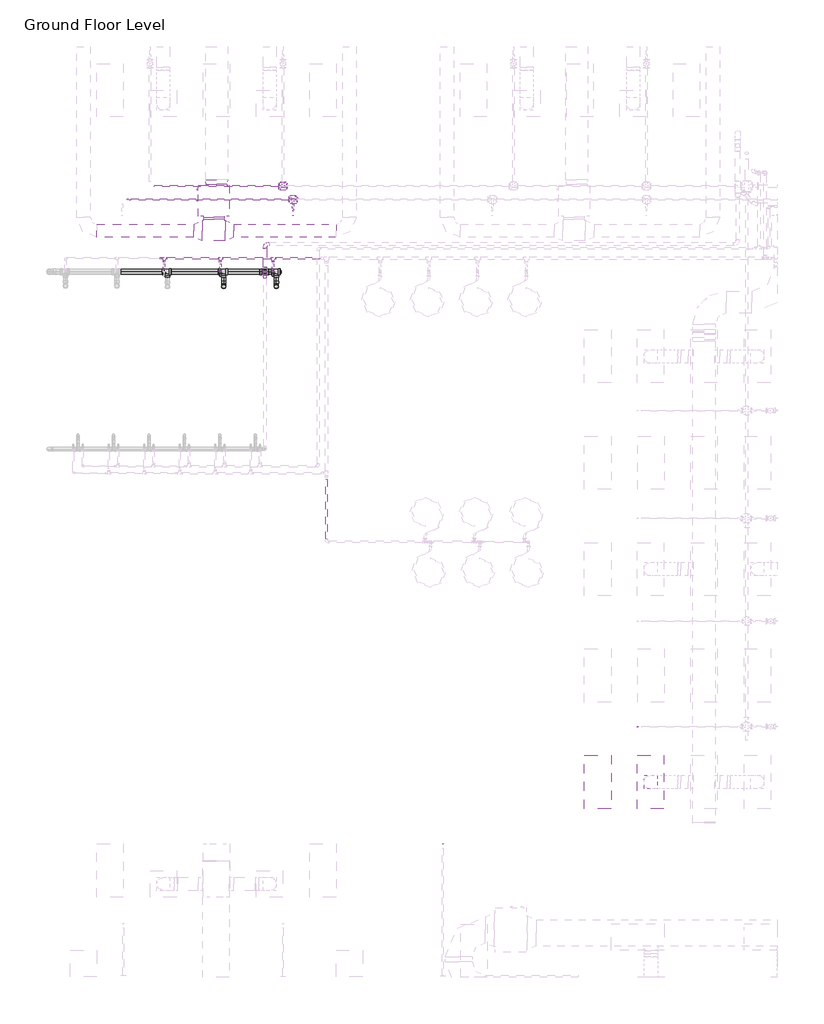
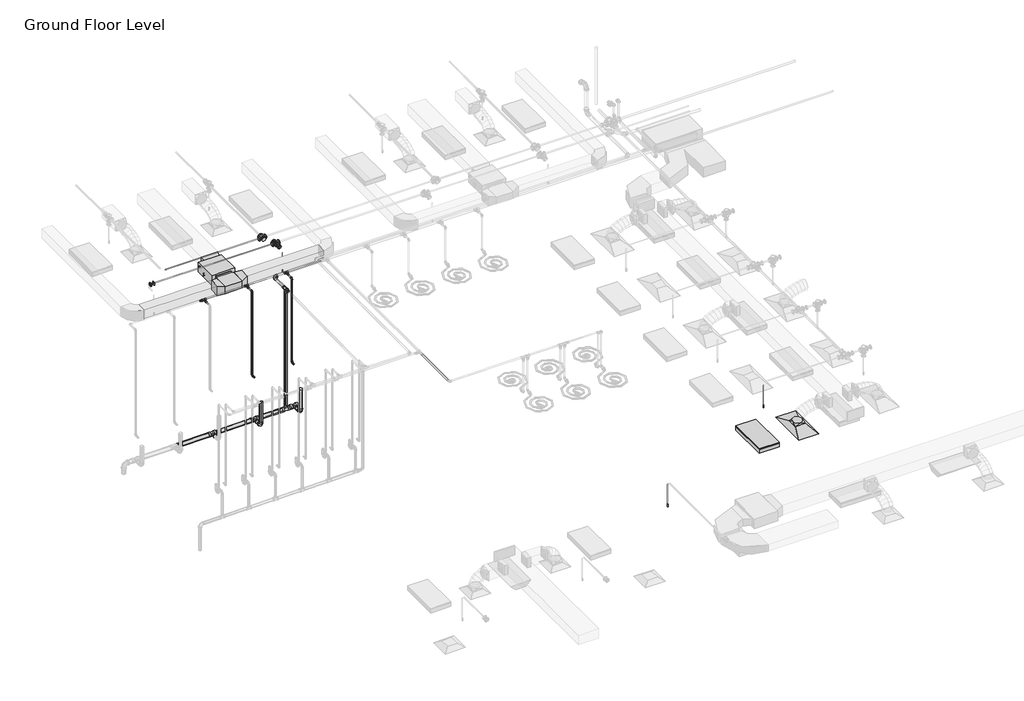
# One storey, part 42 of 68: 28 pipe segments, 25 pipe fittings, 5 duct fittings, 3 duct segments, 3 fire suppression terminals, 1 air terminal, 1 light fixture, 1 proxy.
"""IFC4 building model written with IfcOpenShell, lengths in millimetres."""

from ifc_helpers import new_model, si_unit, point, frame, frame_2d, origin, place, context, project, spatial, polyline, circle_curve, trimmed, segment, composite_curve, outline, extrude, transform, mapped, element, save
from components import m_return_diffuser_1200x600_1200_x_600_face_300_x_300_d1983ef6, fcu_daikin_iu_bad131e0, m_rectangular_tee_standard_fa4de0e8, m_rectangular_transition_angle_45_degree_5a11b24e, m_rectangular_transition_angle_45_degree_6e5ad010, m_rectangular_to_round_transition_angle_45_degree_641efff0, m_sprinkler_dry_pendent_hosted_15_mm_dry_pendent_9bda8e11, m_sprinkler_pendent_15_mm_pendent_06fcbd8e, m_troffer_light_parabolic_rectangular1_0600x1200mm_4_lamp_86473d4a, m_bend_pvc_sch_40_dwv_standard_a4b99d37, m_bend_pvc_sch_40_dwv_standard_1fdc8943, m_plug_pvc_sch_40_dwv_standard_6c40de1c, m_reducer_flanged_cs_class_150_standard_ccf252ad, m_reducer_pvc_sch_40_dwv_standard_d6f2da47, m_tee_reducing_sanitary_pvc_sch_40_dwv_standard_b49161a9, m_tee_reducing_sanitary_pvc_sch_40_dwv_standard_35af4ecc, m_tee_reducing_sanitary_pvc_sch_40_dwv_standard_9cd1363b, m_tee_round_base_flanged_cs_class_150_standard_7e5987a1, standard_517a5a8d, standard_08ff6011, standard_d0d0b892

model = new_model("IFC4")

# Units and contexts
model_context = context("Model", 3, world=origin())
ifc_project = project(units=[si_unit("LENGTHUNIT", "METRE", prefix="MILLI")], contexts=[model_context])

# Site, building, storey
site = spatial("IfcSite", under=ifc_project)
building = spatial("IfcBuilding", under=site)
storey = spatial("IfcBuildingStorey", under=building, Name="Ground Floor Level", Elevation=900.0)

# Air terminal
placement = place(None, origin())
m_return_diffuser_1200x600_1200_x_600_face_300_x_300_shape = m_return_diffuser_1200x600_1200_x_600_face_300_x_300_d1983ef6(model_context)
element("IfcAirTerminal", 1, ObjectType="M_Supply Diffuser 1200x600 : 1200 x 600 Face 300 x 300 Connection", at=placement, inside=storey, context=model_context, shape_type="MappedRepresentation", body=[
    mapped(m_return_diffuser_1200x600_1200_x_600_face_300_x_300_shape, transform((-8142.6846929, 1635.2153534, 3650.0), x_axis=(0.0, 1.0, 0.0), y_axis=(-1.0, 0.0, 0.0), z_axis=(0.0, 0.0, 1.0))),
])

# Proxy
fcu_daikin_iu_shape = fcu_daikin_iu_bad131e0(model_context)
element("IfcBuildingElementProxy", 2, Name="FCU-DAIKIN IU : 4.5kW, 230V/50Hz/1Ph", ObjectType="FCU-DAIKIN IU : 4.5kW, 230V/50Hz/1Ph", at=placement, inside=storey, context=model_context, shape_type="MappedRepresentation", body=[
    mapped(fcu_daikin_iu_shape, transform((-17997.2327605, 14745.2153534, 3934.0881511), x_axis=(-1.0, 0.0, 0.0), y_axis=(0.0, -1.0, 0.0), z_axis=(0.0, 0.0, 1.0))),
])

# Duct fittings
m_rectangular_tee_standard_shape = m_rectangular_tee_standard_fa4de0e8(model_context)
element("IfcDuctFitting", 3, ObjectType="M_Rectangular Tee : Standard", at=placement, inside=storey, context=model_context, shape_type="MappedRepresentation", body=[
    mapped(m_rectangular_tee_standard_shape, transform((-17997.2327605, 14069.8153534, 4075.2881511), x_axis=(-1.0, 0.0, 0.0), y_axis=(0.0, -1.0, 0.0), z_axis=(0.0, 0.0, 1.0))),
])
m_rectangular_transition_angle_45_degree_shape = m_rectangular_transition_angle_45_degree_5a11b24e(model_context)
element("IfcDuctFitting", 4, ObjectType="M_Rectangular Transition - Angle : 45 Degree", at=placement, inside=storey, context=model_context, shape_type="MappedRepresentation", body=[
    mapped(m_rectangular_transition_angle_45_degree_shape, transform((-17933.7327605, 15120.6153534, 4100.0006511), x_axis=(0.0, 1.0, 0.0), y_axis=(-1.0, 0.0, 0.0), z_axis=(0.0, 0.0, 1.0))),
])
m_rectangular_transition_angle_45_degree_2_shape = m_rectangular_transition_angle_45_degree_6e5ad010(model_context)
element("IfcDuctFitting", 5, ObjectType="M_Rectangular Transition - Angle : 45 Degree", at=placement, inside=storey, context=model_context, shape_type="MappedRepresentation", body=[
    mapped(m_rectangular_transition_angle_45_degree_2_shape, transform((-17741.2952605, 14069.8153534, 4075.2881511), x_axis=(1.0, 0.0, 0.0), y_axis=(0.0, 1.0, 0.0), z_axis=(0.0, 0.0, 1.0))),
])
element("IfcDuctFitting", 6, ObjectType="M_Rectangular Transition - Angle : 45 Degree", at=placement, inside=storey, context=model_context, shape_type="MappedRepresentation", body=[
    mapped(m_rectangular_transition_angle_45_degree_2_shape, transform((-18253.1702605, 14069.8153534, 4075.2881511), x_axis=(-1.0, 0.0, 0.0), y_axis=(0.0, -1.0, 0.0), z_axis=(0.0, 0.0, 1.0))),
])
m_rectangular_to_round_transition_angle_45_degree_shape = m_rectangular_to_round_transition_angle_45_degree_641efff0(model_context)
element("IfcDuctFitting", 7, ObjectType="M_Rectangular to Round Transition - Angle : 45 Degree", at=placement, inside=storey, context=model_context, shape_type="MappedRepresentation", body=[
    mapped(m_rectangular_to_round_transition_angle_45_degree_shape, transform((-8142.6846929, 1635.2153534, 3751.6), x_axis=(0.0, 0.0, 1.0), y_axis=(-1.0, 0.0, 0.0), z_axis=(0.0, -1.0, 0.0))),
])

# Duct segments
element("IfcDuctSegment", 8, ObjectType="Radius Elbows / Taps", at=placement, inside=storey, context=model_context, shape_type="SweptSolid", body=[
    extrude(outline(polyline([(-18228.1702605, 14369.8153534), (-17766.2952605, 14369.8153534), (-17766.2952605, 14325.7528534), (-18228.1702605, 14325.7528534), (-18228.1702605, 14369.8153534)])), frame((0.0, 0.0, 3968.1381511), z_axis=(0.0, 0.0, 1.0), x_axis=(1.0, 0.0, 0.0)), (0.0, 0.0, 1.0), 214.3),
])
element("IfcDuctSegment", 9, ObjectType="Radius Elbows / Taps", at=placement, inside=storey, context=model_context, shape_type="SweptSolid", body=[
    extrude(outline(polyline([(-17545.8948503, 13919.8153534), (-17545.8948503, 14219.8153534), (-15237.2327605, 14219.8153534), (-15237.2327605, 13919.8153534), (-17545.8948503, 13919.8153534)])), frame((0.0, 0.0, 3925.2881511), z_axis=(0.0, 0.0, 1.0), x_axis=(1.0, 0.0, 0.0)), (0.0, 0.0, 1.0), 300.0),
])
element("IfcDuctSegment", 10, ObjectType="Radius Elbows / Taps", at=placement, inside=storey, context=model_context, shape_type="SweptSolid", body=[
    extrude(outline(polyline([(-18448.5706707, 14219.8153534), (-18448.5706707, 13919.8153534), (-20637.2327605, 13919.8153534), (-20637.2327605, 14219.8153534), (-18448.5706707, 14219.8153534)])), frame((0.0, 0.0, 3925.2881511), z_axis=(0.0, 0.0, 1.0), x_axis=(1.0, 0.0, 0.0)), (0.0, 0.0, 1.0), 300.0),
])

# Fire suppression terminals
m_sprinkler_dry_pendent_hosted_15_mm_dry_pendent_shape = m_sprinkler_dry_pendent_hosted_15_mm_dry_pendent_9bda8e11(model_context)
element("IfcFireSuppressionTerminal", 11, ObjectType="M_Sprinkler - Dry - Pendent - Hosted : 15 mm Dry Pendent", at=placement, inside=storey, context=model_context, shape_type="MappedRepresentation", body=[
    mapped(m_sprinkler_dry_pendent_hosted_15_mm_dry_pendent_shape, transform((-8437.2327605, 2881.5134565, 3650.0), x_axis=(1.0, 0.0, 0.0), y_axis=(0.0, -1.0, 0.0), z_axis=(0.0, 0.0, -1.0))),
])
element("IfcFireSuppressionTerminal", 12, ObjectType="M_Sprinkler - Dry - Pendent - Hosted : 15 mm Dry Pendent", at=placement, inside=storey, context=model_context, shape_type="MappedRepresentation", body=[
    mapped(m_sprinkler_dry_pendent_hosted_15_mm_dry_pendent_shape, transform((-12837.2327605, 235.2153534, 3650.0), x_axis=(1.0, 0.0, 0.0), y_axis=(0.0, -1.0, 0.0), z_axis=(0.0, 0.0, -1.0))),
])
m_sprinkler_pendent_15_mm_pendent_shape = m_sprinkler_pendent_15_mm_pendent_06fcbd8e(model_context)
element("IfcFireSuppressionTerminal", 13, ObjectType="M_Sprinkler - Pendent : 15 mm Pendent", at=placement, inside=storey, context=model_context, shape_type="MappedRepresentation", body=[
    mapped(m_sprinkler_pendent_15_mm_pendent_shape, transform((-16210.1138499, 14412.7243649, 3650.0), x_axis=(1.0, 0.0, 0.0), y_axis=(0.0, 1.0, 0.0), z_axis=(0.0, 0.0, 1.0))),
])

# Light fixture
m_troffer_light_parabolic_rectangular1_0600x1200mm_4_lamp_shape = m_troffer_light_parabolic_rectangular1_0600x1200mm_4_lamp_86473d4a(model_context)
element("IfcLightFixture", 14, ObjectType="M_Troffer Light - Parabolic Rectangular1 : 0600x1200mm(4 Lamp) - 277V 2", at=placement, inside=storey, context=model_context, shape_type="MappedRepresentation", body=[
    mapped(m_troffer_light_parabolic_rectangular1_0600x1200mm_4_lamp_shape, transform((-9396.6986926, 1653.918855, 3650.0), x_axis=(0.0, 1.0, 0.0), y_axis=(-1.0, 0.0, 0.0), z_axis=(0.0, 0.0, 1.0))),
])

# Pipe fittings
m_bend_pvc_sch_40_dwv_standard_shape = m_bend_pvc_sch_40_dwv_standard_a4b99d37(model_context)
element("IfcPipeFitting", 15, ObjectType="M_Bend - PVC - Sch 40 - DWV : Standard", at=placement, inside=storey, context=model_context, shape_type="MappedRepresentation", body=[
    mapped(m_bend_pvc_sch_40_dwv_standard_shape, transform((-17775.8329095, 12811.6726561, 239.3073168), x_axis=(0.0, 0.0, -1.0), y_axis=(0.0, 1.0, 0.0), z_axis=(1.0, 0.0, 0.0))),
])
element("IfcPipeFitting", 16, ObjectType="M_Bend - PVC - Sch 40 - DWV : Standard", at=placement, inside=storey, context=model_context, shape_type="MappedRepresentation", body=[
    mapped(m_bend_pvc_sch_40_dwv_standard_shape, transform((-16586.4202262, 12811.6726561, 251.2014437), x_axis=(0.0, 0.0, -1.0), y_axis=(0.0, 1.0, 0.0), z_axis=(1.0, 0.0, 0.0))),
])
m_bend_pvc_sch_40_dwv_standard_2_shape = m_bend_pvc_sch_40_dwv_standard_1fdc8943(model_context)
element("IfcPipeFitting", 17, ObjectType="M_Bend - PVC - Sch 40 - DWV : Standard", at=placement, inside=storey, context=model_context, shape_type="MappedRepresentation", body=[
    mapped(m_bend_pvc_sch_40_dwv_standard_2_shape, transform((-16844.3158637, 13768.8048932, 4050.2768363), x_axis=(-0.9999500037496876, 0.0, -0.009999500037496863), y_axis=(0.0, -1.0, 0.0), z_axis=(-0.009999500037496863, 0.0, 0.9999500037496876))),
])
m_plug_pvc_sch_40_dwv_standard_shape = m_plug_pvc_sch_40_dwv_standard_6c40de1c(model_context)
element("IfcPipeFitting", 18, ObjectType="M_Plug - PVC - Sch 40 - DWV : Standard", at=placement, inside=storey, context=model_context, shape_type="MappedRepresentation", body=[
    mapped(m_plug_pvc_sch_40_dwv_standard_shape, transform((-16497.5246709, 13143.7240477, 252.0903992), x_axis=(0.9999500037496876, 0.0, 0.009999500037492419), y_axis=(0.0, 1.0, 0.0), z_axis=(-0.009999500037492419, 0.0, 0.9999500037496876))),
])
m_reducer_flanged_cs_class_150_standard_shape = m_reducer_flanged_cs_class_150_standard_ccf252ad(model_context)
element("IfcPipeFitting", 19, ObjectType="M_Reducer - Flanged - CS - Class 150 : Standard", at=placement, inside=storey, context=model_context, shape_type="MappedRepresentation", body=[
    mapped(m_reducer_flanged_cs_class_150_standard_shape, transform((-19856.6717995, 14773.4681847, 4291.0943441), x_axis=(-1.0, 0.0, 0.0), y_axis=(0.0, -1.0, 0.0), z_axis=(0.0, 0.0, 1.0))),
])
element("IfcPipeFitting", 20, ObjectType="M_Reducer - Flanged - CS - Class 150 : Standard", at=placement, inside=storey, context=model_context, shape_type="MappedRepresentation", body=[
    mapped(m_reducer_flanged_cs_class_150_standard_shape, transform((-16210.1138499, 14672.759591, 4291.0943441), x_axis=(0.0, -1.0, 0.0), y_axis=(1.0, 0.0, 0.0), z_axis=(0.0, 0.0, 1.0))),
])
m_reducer_pvc_sch_40_dwv_standard_shape = m_reducer_pvc_sch_40_dwv_standard_d6f2da47(model_context)
element("IfcPipeFitting", 21, ObjectType="M_Reducer - PVC - Sch 40 - DWV : Standard", at=placement, inside=storey, context=model_context, shape_type="MappedRepresentation", body=[
    mapped(m_reducer_pvc_sch_40_dwv_standard_shape, transform((-16844.3158637, 13068.078397, 4049.9889294), x_axis=(0.0, -0.9999576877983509, -0.009199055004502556), y_axis=(1.0000000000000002, 0.0, 0.0), z_axis=(0.0, -0.009199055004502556, 0.9999576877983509))),
])
m_tee_reducing_sanitary_pvc_sch_40_dwv_standard_shape = m_tee_reducing_sanitary_pvc_sch_40_dwv_standard_b49161a9(model_context)
element("IfcPipeFitting", 22, ObjectType="M_Tee Reducing Sanitary - PVC - Sch 40 - DWV : Standard", at=placement, inside=storey, context=model_context, shape_type="MappedRepresentation", body=[
    mapped(m_tee_reducing_sanitary_pvc_sch_40_dwv_standard_shape, transform((-19043.0428538, 13143.7240477, 226.6352174), x_axis=(0.9999500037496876, 0.0, 0.009999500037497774), y_axis=(0.0, 1.0000000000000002, 0.0), z_axis=(-0.009999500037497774, 0.0, 0.9999500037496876))),
])
element("IfcPipeFitting", 23, ObjectType="M_Tee Reducing Sanitary - PVC - Sch 40 - DWV : Standard", at=placement, inside=storey, context=model_context, shape_type="MappedRepresentation", body=[
    mapped(m_tee_reducing_sanitary_pvc_sch_40_dwv_standard_shape, transform((-17775.8329095, 13143.7240477, 239.3073168), x_axis=(0.9999500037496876, 0.0, 0.00999950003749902), y_axis=(0.0, 1.0000000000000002, 0.0), z_axis=(-0.00999950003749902, 0.0, 0.9999500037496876))),
])
element("IfcPipeFitting", 24, ObjectType="M_Tee Reducing Sanitary - PVC - Sch 40 - DWV : Standard", at=placement, inside=storey, context=model_context, shape_type="MappedRepresentation", body=[
    mapped(m_tee_reducing_sanitary_pvc_sch_40_dwv_standard_shape, transform((-16586.4202262, 13143.7240477, 251.2014437), x_axis=(0.9999500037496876, 0.0, 0.009999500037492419), y_axis=(0.0, 1.0, 0.0), z_axis=(-0.009999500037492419, 0.0, 0.9999500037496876))),
])
m_tee_reducing_sanitary_pvc_sch_40_dwv_standard_2_shape = m_tee_reducing_sanitary_pvc_sch_40_dwv_standard_35af4ecc(model_context)
element("IfcPipeFitting", 25, ObjectType="M_Tee Reducing Sanitary - PVC - Sch 40 - DWV : Standard", at=placement, inside=storey, context=model_context, shape_type="MappedRepresentation", body=[
    mapped(m_tee_reducing_sanitary_pvc_sch_40_dwv_standard_2_shape, transform((-16844.3824695, 13143.7240477, 248.6218212), x_axis=(0.9999500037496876, 0.0, 0.00999950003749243), y_axis=(0.00999950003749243, 0.0, -0.9999500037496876), z_axis=(0.0, 1.0, 0.0))),
])
m_tee_reducing_sanitary_pvc_sch_40_dwv_standard_3_shape = m_tee_reducing_sanitary_pvc_sch_40_dwv_standard_9cd1363b(model_context)
element("IfcPipeFitting", 26, ObjectType="M_Tee Reducing Sanitary - PVC - Sch 40 - DWV : Standard", at=placement, inside=storey, context=model_context, shape_type="MappedRepresentation", body=[
    mapped(m_tee_reducing_sanitary_pvc_sch_40_dwv_standard_3_shape, transform((-16844.3158637, 13143.7240477, 4050.2768363), x_axis=(0.0, -1.0, 0.0), y_axis=(-2.9192257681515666e-06, 0.0, 0.9999999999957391), z_axis=(-0.9999999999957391, 0.0, -2.9192257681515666e-06))),
])
m_tee_round_base_flanged_cs_class_150_standard_shape = m_tee_round_base_flanged_cs_class_150_standard_7e5987a1(model_context)
element("IfcPipeFitting", 27, ObjectType="M_Tee Round Base - Flanged - CS - Class 150 : Standard", at=placement, inside=storey, context=model_context, shape_type="MappedRepresentation", body=[
    mapped(m_tee_round_base_flanged_cs_class_150_standard_shape, transform((-16210.1138499, 14773.4681847, 4291.0943441), x_axis=(-1.0, 0.0, 0.0), y_axis=(0.0, 1.0, 0.0), z_axis=(0.0, 0.0, -1.0))),
])
element("IfcPipeFitting", 28, ObjectType="M_Tee Round Base - Flanged - CS - Class 150 : Standard", at=placement, inside=storey, context=model_context, shape_type="MappedRepresentation", body=[
    mapped(m_tee_round_base_flanged_cs_class_150_standard_shape, transform((-16437.2327605, 15073.2009828, 4360.0), x_axis=(-1.0, 0.0, 0.0), y_axis=(0.0, -1.0, 0.0), z_axis=(0.0, 0.0, 1.0))),
])
standard_shape = standard_517a5a8d(model_context)
element("IfcPipeFitting", 29, ObjectType="M_Elbow - CPVC - Sch 40 : Standard", at=placement, inside=storey, context=model_context, shape_type="MappedRepresentation", body=[
    mapped(standard_shape, transform((-17849.2716757, 13149.9865561, 4315.0), x_axis=(0.0, 0.0, 1.0), y_axis=(0.0, 1.0, 0.0), z_axis=(-1.0, 0.0, 0.0))),
])
element("IfcPipeFitting", 30, ObjectType="M_Elbow - CPVC - Sch 40 : Standard", at=placement, inside=storey, context=model_context, shape_type="MappedRepresentation", body=[
    mapped(standard_shape, transform((-16659.8589924, 13149.9865561, 4315.0), x_axis=(0.0, 0.0, 1.0), y_axis=(0.0, 1.0, 0.0), z_axis=(-1.0, 0.0, 0.0))),
])
element("IfcPipeFitting", 31, ObjectType="M_Elbow - CPVC - Sch 40 : Standard", at=placement, inside=storey, context=model_context, shape_type="MappedRepresentation", body=[
    mapped(standard_shape, transform((-17849.2716757, 13149.9865561, 1655.0), x_axis=(0.0, 0.0, -1.0), y_axis=(0.0, -1.0, 0.0), z_axis=(-1.0, 0.0, 0.0))),
])
element("IfcPipeFitting", 32, ObjectType="M_Elbow - CPVC - Sch 40 : Standard", at=placement, inside=storey, context=model_context, shape_type="MappedRepresentation", body=[
    mapped(standard_shape, transform((-16659.8589924, 13149.9865561, 1655.0), x_axis=(0.0, 0.0, -1.0), y_axis=(0.0, -1.0, 0.0), z_axis=(-1.0, 0.0, 0.0))),
])
standard_2_shape = standard_08ff6011(model_context)
element("IfcPipeFitting", 33, ObjectType="M_Tee - CPVC - Sch 40 : Standard", at=placement, inside=storey, context=model_context, shape_type="MappedRepresentation", body=[
    mapped(standard_2_shape, transform((-19116.48162, 13449.9865561, 4315.0), x_axis=(-1.0, 0.0, 0.0), y_axis=(0.0, 1.0, 0.0), z_axis=(0.0, 0.0, -1.0))),
])
element("IfcPipeFitting", 34, ObjectType="M_Tee - CPVC - Sch 40 : Standard", at=placement, inside=storey, context=model_context, shape_type="MappedRepresentation", body=[
    mapped(standard_2_shape, transform((-17849.2716757, 13449.9865561, 4315.0), x_axis=(-1.0, 0.0, 0.0), y_axis=(0.0, 1.0, 0.0), z_axis=(0.0, 0.0, -1.0))),
])
element("IfcPipeFitting", 35, ObjectType="M_Tee - CPVC - Sch 40 : Standard", at=placement, inside=storey, context=model_context, shape_type="MappedRepresentation", body=[
    mapped(standard_2_shape, transform((-16659.8589924, 13449.9865561, 4315.0), x_axis=(-1.0, 0.0, 0.0), y_axis=(0.0, 1.0, 0.0), z_axis=(0.0, 0.0, -1.0))),
])
standard_3_shape = standard_d0d0b892(model_context)
element("IfcPipeFitting", 36, ObjectType="M_Coupling Reducing - CPVC - Sch 40 : Standard", at=placement, inside=storey, context=model_context, shape_type="MappedRepresentation", body=[
    mapped(standard_3_shape, transform((-19116.48162, 13396.0115561, 4315.0), x_axis=(0.0, -1.0, 0.0), y_axis=(1.0, 0.0, 0.0), z_axis=(0.0, 0.0, 1.0))),
])
element("IfcPipeFitting", 37, ObjectType="M_Coupling Reducing - CPVC - Sch 40 : Standard", at=placement, inside=storey, context=model_context, shape_type="MappedRepresentation", body=[
    mapped(standard_3_shape, transform((-17849.2716757, 13396.0115561, 4315.0), x_axis=(0.0, -1.0, 0.0), y_axis=(1.0, 0.0, 0.0), z_axis=(0.0, 0.0, 1.0))),
])
element("IfcPipeFitting", 38, ObjectType="M_Coupling Reducing - CPVC - Sch 40 : Standard", at=placement, inside=storey, context=model_context, shape_type="MappedRepresentation", body=[
    mapped(standard_3_shape, transform((-16659.8589924, 13396.0115561, 4315.0), x_axis=(0.0, -1.0, 0.0), y_axis=(1.0, 0.0, 0.0), z_axis=(0.0, 0.0, 1.0))),
])
element("IfcPipeFitting", 39, ObjectType="M_Coupling Reducing - CPVC - Sch 40 : Standard", at=placement, inside=storey, context=model_context, shape_type="MappedRepresentation", body=[
    mapped(standard_3_shape, transform((-19170.45662, 13449.9865561, 4315.0), x_axis=(-1.0, 0.0, 0.0), y_axis=(0.0, -1.0, 0.0), z_axis=(0.0, 0.0, 1.0))),
])

# Pipe segments
element("IfcPipeSegment", 40, ObjectType="CPVC", at=placement, inside=storey, context=model_context, shape_type="SweptSolid", body=[
    extrude(outline(composite_curve([segment(trimmed(circle_curve(frame_2d((1655.0, -17849.2716757)), 16.7005), [point((1655.0, -17865.9721757))], [point((1638.2995, -17849.2716757))], False, "CARTESIAN"), True, "CONTINUOUS"), segment(trimmed(circle_curve(frame_2d((1655.0, -17849.2716757)), 16.7005), [point((1638.2995, -17849.2716757))], [point((1655.0, -17832.5711757))], False, "CARTESIAN"), True, "CONTINUOUS"), segment(trimmed(circle_curve(frame_2d((1655.0, -17849.2716757)), 16.7005), [point((1655.0, -17832.5711757))], [point((1671.7005, -17849.2716757))], False, "CARTESIAN"), True, "CONTINUOUS"), segment(trimmed(circle_curve(frame_2d((1655.0, -17849.2716757)), 16.7005), [point((1671.7005, -17849.2716757))], [point((1655.0, -17865.9721757))], False, "CARTESIAN"), True, "CONTINUOUS")], self_intersect=False)), frame((0.0, 13045.2153534, 0.0), z_axis=(0.0, 1.0, 0.0), x_axis=(0.0, 0.0, 1.0)), (0.0, 0.0, 1.0), 61.5086528),
])
element("IfcPipeSegment", 41, ObjectType="CPVC", at=placement, inside=storey, context=model_context, shape_type="SweptSolid", body=[
    extrude(outline(composite_curve([segment(trimmed(circle_curve(frame_2d((-17849.2716757, 13149.9865561)), 16.7005), [point((-17865.9721757, 13149.9865561))], [point((-17849.2716757, 13166.6870561))], False, "CARTESIAN"), True, "CONTINUOUS"), segment(trimmed(circle_curve(frame_2d((-17849.2716757, 13149.9865561)), 16.7005), [point((-17849.2716757, 13166.6870561))], [point((-17832.5711757, 13149.9865561))], False, "CARTESIAN"), True, "CONTINUOUS"), segment(trimmed(circle_curve(frame_2d((-17849.2716757, 13149.9865561)), 16.7005), [point((-17832.5711757, 13149.9865561))], [point((-17849.2716757, 13133.2860561))], False, "CARTESIAN"), True, "CONTINUOUS"), segment(trimmed(circle_curve(frame_2d((-17849.2716757, 13149.9865561)), 16.7005), [point((-17849.2716757, 13133.2860561))], [point((-17865.9721757, 13149.9865561))], False, "CARTESIAN"), True, "CONTINUOUS")], self_intersect=False)), frame((0.0, 0.0, 1698.26255), z_axis=(0.0, 0.0, 1.0), x_axis=(1.0, 0.0, 0.0)), (0.0, 0.0, 1.0), 2573.4749),
])
element("IfcPipeSegment", 42, ObjectType="CPVC", at=placement, inside=storey, context=model_context, shape_type="SweptSolid", body=[
    extrude(outline(composite_curve([segment(trimmed(circle_curve(frame_2d((1655.0, -16659.8589924)), 16.7005), [point((1655.0, -16676.5594924))], [point((1638.2995, -16659.8589924))], False, "CARTESIAN"), True, "CONTINUOUS"), segment(trimmed(circle_curve(frame_2d((1655.0, -16659.8589924)), 16.7005), [point((1638.2995, -16659.8589924))], [point((1655.0, -16643.1584924))], False, "CARTESIAN"), True, "CONTINUOUS"), segment(trimmed(circle_curve(frame_2d((1655.0, -16659.8589924)), 16.7005), [point((1655.0, -16643.1584924))], [point((1671.7005, -16659.8589924))], False, "CARTESIAN"), True, "CONTINUOUS"), segment(trimmed(circle_curve(frame_2d((1655.0, -16659.8589924)), 16.7005), [point((1671.7005, -16659.8589924))], [point((1655.0, -16676.5594924))], False, "CARTESIAN"), True, "CONTINUOUS")], self_intersect=False)), frame((0.0, 13045.2153534, 0.0), z_axis=(0.0, 1.0, 0.0), x_axis=(0.0, 0.0, 1.0)), (0.0, 0.0, 1.0), 61.5086528),
])
element("IfcPipeSegment", 43, ObjectType="CPVC", at=placement, inside=storey, context=model_context, shape_type="SweptSolid", body=[
    extrude(outline(composite_curve([segment(trimmed(circle_curve(frame_2d((-16659.8589924, 13149.9865561)), 16.7005), [point((-16676.5594924, 13149.9865561))], [point((-16659.8589924, 13166.6870561))], False, "CARTESIAN"), True, "CONTINUOUS"), segment(trimmed(circle_curve(frame_2d((-16659.8589924, 13149.9865561)), 16.7005), [point((-16659.8589924, 13166.6870561))], [point((-16643.1584924, 13149.9865561))], False, "CARTESIAN"), True, "CONTINUOUS"), segment(trimmed(circle_curve(frame_2d((-16659.8589924, 13149.9865561)), 16.7005), [point((-16643.1584924, 13149.9865561))], [point((-16659.8589924, 13133.2860561))], False, "CARTESIAN"), True, "CONTINUOUS"), segment(trimmed(circle_curve(frame_2d((-16659.8589924, 13149.9865561)), 16.7005), [point((-16659.8589924, 13133.2860561))], [point((-16676.5594924, 13149.9865561))], False, "CARTESIAN"), True, "CONTINUOUS")], self_intersect=False)), frame((0.0, 0.0, 1698.26255), z_axis=(0.0, 0.0, 1.0), x_axis=(1.0, 0.0, 0.0)), (0.0, 0.0, 1.0), 2573.4749),
])
element("IfcPipeSegment", 44, ObjectType="CPVC", at=placement, inside=storey, context=model_context, shape_type="SweptSolid", body=[
    extrude(outline(composite_curve([segment(trimmed(circle_curve(frame_2d((4315.0, -19116.48162)), 16.7005), [point((4315.0, -19099.78112))], [point((4331.7005, -19116.48162))], False, "CARTESIAN"), True, "CONTINUOUS"), segment(trimmed(circle_curve(frame_2d((4315.0, -19116.48162)), 16.7005), [point((4331.7005, -19116.48162))], [point((4315.0, -19133.18212))], False, "CARTESIAN"), True, "CONTINUOUS"), segment(trimmed(circle_curve(frame_2d((4315.0, -19116.48162)), 16.7005), [point((4315.0, -19133.18212))], [point((4298.2995, -19116.48162))], False, "CARTESIAN"), True, "CONTINUOUS"), segment(trimmed(circle_curve(frame_2d((4315.0, -19116.48162)), 16.7005), [point((4298.2995, -19116.48162))], [point((4315.0, -19099.78112))], False, "CARTESIAN"), True, "CONTINUOUS")], self_intersect=False)), frame((0.0, 13193.2491061, 0.0), z_axis=(0.0, 1.0, 0.0), x_axis=(0.0, 0.0, 1.0)), (0.0, 0.0, 1.0), 136.643575),
])
element("IfcPipeSegment", 45, ObjectType="CPVC", at=placement, inside=storey, context=model_context, shape_type="SweptSolid", body=[
    extrude(outline(composite_curve([segment(trimmed(circle_curve(frame_2d((13449.9865561, 4315.0)), 21.082), [point((13428.9045561, 4315.0))], [point((13449.9865561, 4336.082))], False, "CARTESIAN"), True, "CONTINUOUS"), segment(trimmed(circle_curve(frame_2d((13449.9865561, 4315.0)), 21.082), [point((13449.9865561, 4336.082))], [point((13471.0685561, 4315.0))], False, "CARTESIAN"), True, "CONTINUOUS"), segment(trimmed(circle_curve(frame_2d((13449.9865561, 4315.0)), 21.082), [point((13471.0685561, 4315.0))], [point((13449.9865561, 4293.918))], False, "CARTESIAN"), True, "CONTINUOUS"), segment(trimmed(circle_curve(frame_2d((13449.9865561, 4315.0)), 21.082), [point((13449.9865561, 4293.918))], [point((13428.9045561, 4315.0))], False, "CARTESIAN"), True, "CONTINUOUS")], self_intersect=False)), frame((-19062.50662, 0.0, 0.0), z_axis=(1.0, 0.0, 0.0), x_axis=(0.0, 1.0, 0.0)), (0.0, 0.0, 1.0), 1159.2599443),
])
element("IfcPipeSegment", 46, ObjectType="CPVC", at=placement, inside=storey, context=model_context, shape_type="SweptSolid", body=[
    extrude(outline(composite_curve([segment(trimmed(circle_curve(frame_2d((4315.0, -17849.2716757)), 16.7005), [point((4315.0, -17832.5711757))], [point((4331.7005, -17849.2716757))], False, "CARTESIAN"), True, "CONTINUOUS"), segment(trimmed(circle_curve(frame_2d((4315.0, -17849.2716757)), 16.7005), [point((4331.7005, -17849.2716757))], [point((4315.0, -17865.9721757))], False, "CARTESIAN"), True, "CONTINUOUS"), segment(trimmed(circle_curve(frame_2d((4315.0, -17849.2716757)), 16.7005), [point((4315.0, -17865.9721757))], [point((4298.2995, -17849.2716757))], False, "CARTESIAN"), True, "CONTINUOUS"), segment(trimmed(circle_curve(frame_2d((4315.0, -17849.2716757)), 16.7005), [point((4298.2995, -17849.2716757))], [point((4315.0, -17832.5711757))], False, "CARTESIAN"), True, "CONTINUOUS")], self_intersect=False)), frame((0.0, 13193.2491061, 0.0), z_axis=(0.0, 1.0, 0.0), x_axis=(0.0, 0.0, 1.0)), (0.0, 0.0, 1.0), 136.643575),
])
element("IfcPipeSegment", 47, ObjectType="CPVC", at=placement, inside=storey, context=model_context, shape_type="SweptSolid", body=[
    extrude(outline(composite_curve([segment(trimmed(circle_curve(frame_2d((13449.9865561, 4315.0)), 21.082), [point((13428.9045561, 4315.0))], [point((13449.9865561, 4336.082))], False, "CARTESIAN"), True, "CONTINUOUS"), segment(trimmed(circle_curve(frame_2d((13449.9865561, 4315.0)), 21.082), [point((13449.9865561, 4336.082))], [point((13471.0685561, 4315.0))], False, "CARTESIAN"), True, "CONTINUOUS"), segment(trimmed(circle_curve(frame_2d((13449.9865561, 4315.0)), 21.082), [point((13471.0685561, 4315.0))], [point((13449.9865561, 4293.918))], False, "CARTESIAN"), True, "CONTINUOUS"), segment(trimmed(circle_curve(frame_2d((13449.9865561, 4315.0)), 21.082), [point((13449.9865561, 4293.918))], [point((13428.9045561, 4315.0))], False, "CARTESIAN"), True, "CONTINUOUS")], self_intersect=False)), frame((-17795.2966757, 0.0, 0.0), z_axis=(1.0, 0.0, 0.0), x_axis=(0.0, 1.0, 0.0)), (0.0, 0.0, 1.0), 1081.4626833),
])
element("IfcPipeSegment", 48, ObjectType="CPVC", at=placement, inside=storey, context=model_context, shape_type="SweptSolid", body=[
    extrude(outline(composite_curve([segment(trimmed(circle_curve(frame_2d((4315.0, -16659.8589924)), 16.7005), [point((4315.0, -16643.1584924))], [point((4331.7005, -16659.8589924))], False, "CARTESIAN"), True, "CONTINUOUS"), segment(trimmed(circle_curve(frame_2d((4315.0, -16659.8589924)), 16.7005), [point((4331.7005, -16659.8589924))], [point((4315.0, -16676.5594924))], False, "CARTESIAN"), True, "CONTINUOUS"), segment(trimmed(circle_curve(frame_2d((4315.0, -16659.8589924)), 16.7005), [point((4315.0, -16676.5594924))], [point((4298.2995, -16659.8589924))], False, "CARTESIAN"), True, "CONTINUOUS"), segment(trimmed(circle_curve(frame_2d((4315.0, -16659.8589924)), 16.7005), [point((4298.2995, -16659.8589924))], [point((4315.0, -16643.1584924))], False, "CARTESIAN"), True, "CONTINUOUS")], self_intersect=False)), frame((0.0, 13193.2491061, 0.0), z_axis=(0.0, 1.0, 0.0), x_axis=(0.0, 0.0, 1.0)), (0.0, 0.0, 1.0), 136.643575),
])
element("IfcPipeSegment", 49, ObjectType="CPVC", at=placement, inside=storey, context=model_context, shape_type="SweptSolid", body=[
    extrude(outline(composite_curve([segment(trimmed(circle_curve(frame_2d((4315.0, -15455.6408298)), 21.082), [point((4315.0, -15476.7228298))], [point((4293.918, -15455.6408298))], False, "CARTESIAN"), True, "CONTINUOUS"), segment(trimmed(circle_curve(frame_2d((4315.0, -15455.6408298)), 21.082), [point((4293.918, -15455.6408298))], [point((4315.0, -15434.5588298))], False, "CARTESIAN"), True, "CONTINUOUS"), segment(trimmed(circle_curve(frame_2d((4315.0, -15455.6408298)), 21.082), [point((4315.0, -15434.5588298))], [point((4336.082, -15455.6408298))], False, "CARTESIAN"), True, "CONTINUOUS"), segment(trimmed(circle_curve(frame_2d((4315.0, -15455.6408298)), 21.082), [point((4336.082, -15455.6408298))], [point((4315.0, -15476.7228298))], False, "CARTESIAN"), True, "CONTINUOUS")], self_intersect=False)), frame((0.0, 7107.9303061, 0.0), z_axis=(0.0, 1.0, 0.0), x_axis=(0.0, 0.0, 1.0)), (0.0, 0.0, 1.0), 1355.4879172),
])
element("IfcPipeSegment", 50, ObjectType="CPVC", at=placement, inside=storey, context=model_context, shape_type="SweptSolid", body=[
    extrude(outline(composite_curve([segment(trimmed(circle_curve(frame_2d((13449.9865561, 4315.0)), 21.082), [point((13428.9045561, 4315.0))], [point((13449.9865561, 4336.082))], False, "CARTESIAN"), True, "CONTINUOUS"), segment(trimmed(circle_curve(frame_2d((13449.9865561, 4315.0)), 21.082), [point((13449.9865561, 4336.082))], [point((13471.0685561, 4315.0))], False, "CARTESIAN"), True, "CONTINUOUS"), segment(trimmed(circle_curve(frame_2d((13449.9865561, 4315.0)), 21.082), [point((13471.0685561, 4315.0))], [point((13449.9865561, 4293.918))], False, "CARTESIAN"), True, "CONTINUOUS"), segment(trimmed(circle_curve(frame_2d((13449.9865561, 4315.0)), 21.082), [point((13449.9865561, 4293.918))], [point((13428.9045561, 4315.0))], False, "CARTESIAN"), True, "CONTINUOUS")], self_intersect=False)), frame((-16605.8839924, 0.0, 0.0), z_axis=(1.0, 0.0, 0.0), x_axis=(0.0, 1.0, 0.0)), (0.0, 0.0, 1.0), 998.2294126),
])
element("IfcPipeSegment", 51, ObjectType="PVC - DWV", at=placement, inside=storey, context=model_context, shape_type="SweptSolid", body=[
    extrude(outline(composite_curve([segment(trimmed(circle_curve(frame_2d((0.0, -57.15)), 57.15), [point((0.0, 0.0))], [point((57.1500001, -57.15))], False, "CARTESIAN"), True, "CONTINUOUS"), segment(trimmed(circle_curve(frame_2d((0.0, -57.15)), 57.15), [point((57.1500001, -57.15))], [point((0.0, -114.3))], False, "CARTESIAN"), True, "CONTINUOUS"), segment(trimmed(circle_curve(frame_2d((0.0, -57.15)), 57.15), [point((0.0, -114.3))], [point((-57.15, -57.15))], False, "CARTESIAN"), True, "CONTINUOUS"), segment(trimmed(circle_curve(frame_2d((0.0, -57.15)), 57.15), [point((-57.15, -57.15))], [point((0.0, 0.0))], False, "CARTESIAN"), True, "CONTINUOUS")], self_intersect=False)), frame((-20094.1472985, 13200.8740477, 216.124173), z_axis=(0.9999500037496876, 0.0, 0.009999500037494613), x_axis=(0.009999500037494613, 0.0, -0.9999500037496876)), (0.0, 0.0, 1.0), 930.5069986),
])
element("IfcPipeSegment", 52, ObjectType="PVC - DWV", at=placement, inside=storey, context=model_context, shape_type="SweptSolid", body=[
    extrude(outline(composite_curve([segment(trimmed(circle_curve(frame_2d((-17775.8329095, 12811.6726561)), 44.45), [point((-17731.3829095, 12811.6726561))], [point((-17775.8329095, 12767.2226561))], False, "CARTESIAN"), True, "CONTINUOUS"), segment(trimmed(circle_curve(frame_2d((-17775.8329095, 12811.6726561)), 44.45), [point((-17775.8329095, 12767.2226561))], [point((-17820.2829095, 12811.6726561))], False, "CARTESIAN"), True, "CONTINUOUS"), segment(trimmed(circle_curve(frame_2d((-17775.8329095, 12811.6726561)), 44.45), [point((-17820.2829095, 12811.6726561))], [point((-17775.8329095, 12856.1226561))], False, "CARTESIAN"), True, "CONTINUOUS"), segment(trimmed(circle_curve(frame_2d((-17775.8329095, 12811.6726561)), 44.45), [point((-17775.8329095, 12856.1226561))], [point((-17731.3829095, 12811.6726561))], False, "CARTESIAN"), True, "CONTINUOUS")], self_intersect=False)), frame((0.0, 0.0, 355.2075168), z_axis=(0.0, 0.0, 1.0), x_axis=(1.0, 0.0, 0.0)), (0.0, 0.0, 1.0), 634.7924832),
])
element("IfcPipeSegment", 53, ObjectType="PVC - DWV", at=placement, inside=storey, context=model_context, shape_type="SweptSolid", body=[
    extrude(outline(composite_curve([segment(trimmed(circle_curve(frame_2d((239.3073168, -17775.8329095)), 44.45), [point((239.3073168, -17731.3829095))], [point((283.7573168, -17775.8329095))], False, "CARTESIAN"), True, "CONTINUOUS"), segment(trimmed(circle_curve(frame_2d((239.3073168, -17775.8329095)), 44.45), [point((283.7573168, -17775.8329095))], [point((239.3073168, -17820.2829095))], False, "CARTESIAN"), True, "CONTINUOUS"), segment(trimmed(circle_curve(frame_2d((239.3073168, -17775.8329095)), 44.45), [point((239.3073168, -17820.2829095))], [point((194.8573168, -17775.8329095))], False, "CARTESIAN"), True, "CONTINUOUS"), segment(trimmed(circle_curve(frame_2d((239.3073168, -17775.8329095)), 44.45), [point((194.8573168, -17775.8329095))], [point((239.3073168, -17731.3829095))], False, "CARTESIAN"), True, "CONTINUOUS")], self_intersect=False)), frame((0.0, 12927.5728561, 0.0), z_axis=(0.0, 1.0, 0.0), x_axis=(0.0, 0.0, 1.0)), (0.0, 0.0, 1.0), 87.5509916),
])
element("IfcPipeSegment", 54, ObjectType="PVC - DWV", at=placement, inside=storey, context=model_context, shape_type="SweptSolid", body=[
    extrude(outline(composite_curve([segment(trimmed(circle_curve(frame_2d((0.0, -57.15)), 57.15), [point((0.0, 0.0))], [point((57.1500001, -57.15))], False, "CARTESIAN"), True, "CONTINUOUS"), segment(trimmed(circle_curve(frame_2d((0.0, -57.15)), 57.15), [point((57.1500001, -57.15))], [point((0.0, -114.3))], False, "CARTESIAN"), True, "CONTINUOUS"), segment(trimmed(circle_curve(frame_2d((0.0, -57.15)), 57.15), [point((0.0, -114.3))], [point((-57.15, -57.15))], False, "CARTESIAN"), True, "CONTINUOUS"), segment(trimmed(circle_curve(frame_2d((0.0, -57.15)), 57.15), [point((-57.15, -57.15))], [point((0.0, 0.0))], False, "CARTESIAN"), True, "CONTINUOUS")], self_intersect=False)), frame((-18954.1472985, 13200.8740477, 227.524173), z_axis=(0.9999500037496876, 0.0, 0.009999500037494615), x_axis=(0.009999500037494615, 0.0, -0.9999500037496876)), (0.0, 0.0, 1.0), 1057.7233032),
])
element("IfcPipeSegment", 55, ObjectType="PVC - DWV", at=placement, inside=storey, context=model_context, shape_type="SweptSolid", body=[
    extrude(outline(composite_curve([segment(trimmed(circle_curve(frame_2d((0.0, -57.15)), 57.15), [point((0.0, 0.0))], [point((57.15, -57.15))], False, "CARTESIAN"), True, "CONTINUOUS"), segment(trimmed(circle_curve(frame_2d((0.0, -57.15)), 57.15), [point((57.15, -57.15))], [point((0.0, -114.3))], False, "CARTESIAN"), True, "CONTINUOUS"), segment(trimmed(circle_curve(frame_2d((0.0, -57.15)), 57.15), [point((0.0, -114.3))], [point((-57.15, -57.15))], False, "CARTESIAN"), True, "CONTINUOUS"), segment(trimmed(circle_curve(frame_2d((0.0, -57.15)), 57.15), [point((-57.15, -57.15))], [point((0.0, 0.0))], False, "CARTESIAN"), True, "CONTINUOUS")], self_intersect=False)), frame((-17686.9373542, 13200.8740477, 240.1962724), z_axis=(0.9999500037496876, 0.0, 0.009999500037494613), x_axis=(0.009999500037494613, 0.0, -0.9999500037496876)), (0.0, 0.0, 1.0), 730.9371051),
])
element("IfcPipeSegment", 56, ObjectType="PVC - DWV", at=placement, inside=storey, context=model_context, shape_type="SweptSolid", body=[
    extrude(outline(composite_curve([segment(trimmed(circle_curve(frame_2d((-16586.4202262, 12811.6726561)), 44.45), [point((-16541.9702262, 12811.6726561))], [point((-16586.4202262, 12767.2226561))], False, "CARTESIAN"), True, "CONTINUOUS"), segment(trimmed(circle_curve(frame_2d((-16586.4202262, 12811.6726561)), 44.45), [point((-16586.4202262, 12767.2226561))], [point((-16630.8702262, 12811.6726561))], False, "CARTESIAN"), True, "CONTINUOUS"), segment(trimmed(circle_curve(frame_2d((-16586.4202262, 12811.6726561)), 44.45), [point((-16630.8702262, 12811.6726561))], [point((-16586.4202262, 12856.1226561))], False, "CARTESIAN"), True, "CONTINUOUS"), segment(trimmed(circle_curve(frame_2d((-16586.4202262, 12811.6726561)), 44.45), [point((-16586.4202262, 12856.1226561))], [point((-16541.9702262, 12811.6726561))], False, "CARTESIAN"), True, "CONTINUOUS")], self_intersect=False)), frame((0.0, 0.0, 367.1016437), z_axis=(0.0, 0.0, 1.0), x_axis=(1.0, 0.0, 0.0)), (0.0, 0.0, 1.0), 622.8983563),
])
element("IfcPipeSegment", 57, ObjectType="PVC - DWV", at=placement, inside=storey, context=model_context, shape_type="SweptSolid", body=[
    extrude(outline(composite_curve([segment(trimmed(circle_curve(frame_2d((251.2014437, -16586.4202262)), 44.45), [point((251.2014437, -16541.9702262))], [point((295.6514437, -16586.4202262))], False, "CARTESIAN"), True, "CONTINUOUS"), segment(trimmed(circle_curve(frame_2d((251.2014437, -16586.4202262)), 44.45), [point((295.6514437, -16586.4202262))], [point((251.2014437, -16630.8702262))], False, "CARTESIAN"), True, "CONTINUOUS"), segment(trimmed(circle_curve(frame_2d((251.2014437, -16586.4202262)), 44.45), [point((251.2014437, -16630.8702262))], [point((206.7514437, -16586.4202262))], False, "CARTESIAN"), True, "CONTINUOUS"), segment(trimmed(circle_curve(frame_2d((251.2014437, -16586.4202262)), 44.45), [point((206.7514437, -16586.4202262))], [point((251.2014437, -16541.9702262))], False, "CARTESIAN"), True, "CONTINUOUS")], self_intersect=False)), frame((0.0, 12927.5728561, 0.0), z_axis=(0.0, 1.0, 0.0), x_axis=(0.0, 0.0, 1.0)), (0.0, 0.0, 1.0), 87.5509916),
])
element("IfcPipeSegment", 58, ObjectType="PVC - DWV", at=placement, inside=storey, context=model_context, shape_type="SweptSolid", body=[
    extrude(outline(composite_curve([segment(trimmed(circle_curve(frame_2d((0.0, 36.5125)), 36.5125), [point((-36.5125, 36.5125))], [point((0.0, 73.025))], False, "CARTESIAN"), True, "CONTINUOUS"), segment(trimmed(circle_curve(frame_2d((0.0, 36.5125)), 36.5125), [point((0.0, 73.025))], [point((36.5125, 36.5125))], False, "CARTESIAN"), True, "CONTINUOUS"), segment(trimmed(circle_curve(frame_2d((0.0, 36.5125)), 36.5125), [point((36.5125, 36.5125))], [point((0.0, 0.0))], False, "CARTESIAN"), True, "CONTINUOUS"), segment(trimmed(circle_curve(frame_2d((0.0, 36.5125)), 36.5125), [point((0.0, 0.0))], [point((-36.5125, 36.5125))], False, "CARTESIAN"), True, "CONTINUOUS")], self_intersect=False)), frame((-16844.3166754, 13107.2115477, 367.13979), z_axis=(3.079824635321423e-07, 0.0, 0.9999999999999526), x_axis=(0.9999999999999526, 0.0, -3.079824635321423e-07)), (0.0, 0.0, 1.0), 3583.1690776),
])
element("IfcPipeSegment", 59, ObjectType="PVC - DWV", at=placement, inside=storey, context=model_context, shape_type="SweptSolid", body=[
    extrude(outline(composite_curve([segment(trimmed(circle_curve(frame_2d((0.0, -57.15)), 57.15), [point((0.0, 0.0))], [point((57.15, -57.15))], False, "CARTESIAN"), True, "CONTINUOUS"), segment(trimmed(circle_curve(frame_2d((0.0, -57.15)), 57.15), [point((57.15, -57.15))], [point((0.0, -114.3))], False, "CARTESIAN"), True, "CONTINUOUS"), segment(trimmed(circle_curve(frame_2d((0.0, -57.15)), 57.15), [point((0.0, -114.3))], [point((-57.15, -57.15))], False, "CARTESIAN"), True, "CONTINUOUS"), segment(trimmed(circle_curve(frame_2d((0.0, -57.15)), 57.15), [point((-57.15, -57.15))], [point((0.0, 0.0))], False, "CARTESIAN"), True, "CONTINUOUS")], self_intersect=False)), frame((-16755.9725021, 13200.8740477, 249.5059209), z_axis=(0.9999500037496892, 0.0, 0.009999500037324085), x_axis=(0.009999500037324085, 0.0, -0.9999500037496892)), (0.0, 0.0, 1.0), 48.9107533),
])
element("IfcPipeSegment", 60, ObjectType="PVC - DWV", at=placement, inside=storey, context=model_context, shape_type="SweptSolid", body=[
    extrude(outline(composite_curve([segment(trimmed(circle_curve(frame_2d((4050.2768363, -16844.3158637)), 36.5125), [point((4050.2768363, -16807.8033637))], [point((4086.7893363, -16844.3158637))], False, "CARTESIAN"), True, "CONTINUOUS"), segment(trimmed(circle_curve(frame_2d((4050.2768363, -16844.3158637)), 36.5125), [point((4086.7893363, -16844.3158637))], [point((4050.2768363, -16880.8283637))], False, "CARTESIAN"), True, "CONTINUOUS"), segment(trimmed(circle_curve(frame_2d((4050.2768363, -16844.3158637)), 36.5125), [point((4050.2768363, -16880.8283637))], [point((4013.7643363, -16844.3158637))], False, "CARTESIAN"), True, "CONTINUOUS"), segment(trimmed(circle_curve(frame_2d((4050.2768363, -16844.3158637)), 36.5125), [point((4013.7643363, -16844.3158637))], [point((4050.2768363, -16807.8033637))], False, "CARTESIAN"), True, "CONTINUOUS")], self_intersect=False)), frame((0.0, 13241.5371665, 0.0), z_axis=(0.0, 1.0, 0.0), x_axis=(0.0, 0.0, 1.0)), (0.0, 0.0, 1.0), 428.2536642),
])
element("IfcPipeSegment", 61, ObjectType="PVC - DWV", at=placement, inside=storey, context=model_context, shape_type="SweptSolid", body=[
    extrude(outline(composite_curve([segment(trimmed(circle_curve(frame_2d((4049.9889294, -16844.3158637)), 36.5125), [point((4049.9889294, -16880.8283637))], [point((4013.4764294, -16844.3158637))], False, "CARTESIAN"), True, "CONTINUOUS"), segment(trimmed(circle_curve(frame_2d((4049.9889294, -16844.3158637)), 36.5125), [point((4013.4764294, -16844.3158637))], [point((4049.9889294, -16807.8033637))], False, "CARTESIAN"), True, "CONTINUOUS"), segment(trimmed(circle_curve(frame_2d((4049.9889294, -16844.3158637)), 36.5125), [point((4049.9889294, -16807.8033637))], [point((4086.5014294, -16844.3158637))], False, "CARTESIAN"), True, "CONTINUOUS"), segment(trimmed(circle_curve(frame_2d((4049.9889294, -16844.3158637)), 36.5125), [point((4086.5014294, -16844.3158637))], [point((4049.9889294, -16880.8283637))], False, "CARTESIAN"), True, "CONTINUOUS")], self_intersect=False)), frame((0.0, 13068.078397, 0.0), z_axis=(0.0, 1.0, 0.0), x_axis=(0.0, 0.0, 1.0)), (0.0, 0.0, 1.0), 4.2961132),
])
element("IfcPipeSegment", 62, ObjectType="Steel flanged", at=placement, inside=storey, context=model_context, shape_type="SweptSolid", body=[
    extrude(outline(composite_curve([segment(trimmed(circle_curve(frame_2d((-16210.1138499, 14412.7243649)), 10.668), [point((-16220.7818499, 14412.7243649))], [point((-16210.1138499, 14423.3923649))], False, "CARTESIAN"), True, "CONTINUOUS"), segment(trimmed(circle_curve(frame_2d((-16210.1138499, 14412.7243649)), 10.668), [point((-16210.1138499, 14423.3923649))], [point((-16199.4458499, 14412.7243649))], False, "CARTESIAN"), True, "CONTINUOUS"), segment(trimmed(circle_curve(frame_2d((-16210.1138499, 14412.7243649)), 10.668), [point((-16199.4458499, 14412.7243649))], [point((-16210.1138499, 14402.0563649))], False, "CARTESIAN"), True, "CONTINUOUS"), segment(trimmed(circle_curve(frame_2d((-16210.1138499, 14412.7243649)), 10.668), [point((-16210.1138499, 14402.0563649))], [point((-16220.7818499, 14412.7243649))], False, "CARTESIAN"), True, "CONTINUOUS")], self_intersect=False)), frame((0.0, 0.0, 3650.0), z_axis=(0.0, 0.0, 1.0), x_axis=(1.0, 0.0, 0.0)), (0.0, 0.0, 1.0), 548.2668816),
])
element("IfcPipeSegment", 63, ObjectType="Steel flanged", at=placement, inside=storey, context=model_context, shape_type="SweptSolid", body=[
    extrude(outline(composite_curve([segment(trimmed(circle_curve(frame_2d((4291.0943441, -16210.1138499)), 10.668), [point((4291.0943441, -16199.4458499))], [point((4301.7623441, -16210.1138499))], False, "CARTESIAN"), True, "CONTINUOUS"), segment(trimmed(circle_curve(frame_2d((4291.0943441, -16210.1138499)), 10.668), [point((4301.7623441, -16210.1138499))], [point((4291.0943441, -16220.7818499))], False, "CARTESIAN"), True, "CONTINUOUS"), segment(trimmed(circle_curve(frame_2d((4291.0943441, -16210.1138499)), 10.668), [point((4291.0943441, -16220.7818499))], [point((4280.4263441, -16210.1138499))], False, "CARTESIAN"), True, "CONTINUOUS"), segment(trimmed(circle_curve(frame_2d((4291.0943441, -16210.1138499)), 10.668), [point((4280.4263441, -16210.1138499))], [point((4291.0943441, -16199.4458499))], False, "CARTESIAN"), True, "CONTINUOUS")], self_intersect=False)), frame((0.0, 14505.7329586, 0.0), z_axis=(0.0, 1.0, 0.0), x_axis=(0.0, 0.0, 1.0)), (0.0, 0.0, 1.0), 53.0266324),
])
element("IfcPipeSegment", 64, ObjectType="Steel flanged", at=placement, inside=storey, context=model_context, shape_type="SweptSolid", body=[
    extrude(outline(composite_curve([segment(trimmed(circle_curve(frame_2d((14773.4681847, 4291.0943441)), 16.7005), [point((14756.7676847, 4291.0943441))], [point((14773.4681847, 4307.7948441))], False, "CARTESIAN"), True, "CONTINUOUS"), segment(trimmed(circle_curve(frame_2d((14773.4681847, 4291.0943441)), 16.7005), [point((14773.4681847, 4307.7948441))], [point((14790.1686847, 4291.0943441))], False, "CARTESIAN"), True, "CONTINUOUS"), segment(trimmed(circle_curve(frame_2d((14773.4681847, 4291.0943441)), 16.7005), [point((14790.1686847, 4291.0943441))], [point((14773.4681847, 4274.3938441))], False, "CARTESIAN"), True, "CONTINUOUS"), segment(trimmed(circle_curve(frame_2d((14773.4681847, 4291.0943441)), 16.7005), [point((14773.4681847, 4274.3938441))], [point((14756.7676847, 4291.0943441))], False, "CARTESIAN"), True, "CONTINUOUS")], self_intersect=False)), frame((-19856.6717995, 0.0, 0.0), z_axis=(1.0, 0.0, 0.0), x_axis=(0.0, 1.0, 0.0)), (0.0, 0.0, 1.0), 3545.8493558),
])
element("IfcPipeSegment", 65, ObjectType="Steel flanged", at=placement, inside=storey, context=model_context, shape_type="SweptSolid", body=[
    extrude(outline(composite_curve([segment(trimmed(circle_curve(frame_2d((15073.2009828, 4360.0)), 16.7005), [point((15056.5004828, 4360.0))], [point((15073.2009828, 4376.7005))], False, "CARTESIAN"), True, "CONTINUOUS"), segment(trimmed(circle_curve(frame_2d((15073.2009828, 4360.0)), 16.7005), [point((15073.2009828, 4376.7005))], [point((15089.9014828, 4360.0))], False, "CARTESIAN"), True, "CONTINUOUS"), segment(trimmed(circle_curve(frame_2d((15073.2009828, 4360.0)), 16.7005), [point((15089.9014828, 4360.0))], [point((15073.2009828, 4343.2995))], False, "CARTESIAN"), True, "CONTINUOUS"), segment(trimmed(circle_curve(frame_2d((15073.2009828, 4360.0)), 16.7005), [point((15073.2009828, 4343.2995))], [point((15056.5004828, 4360.0))], False, "CARTESIAN"), True, "CONTINUOUS")], self_intersect=False)), frame((-19336.5241668, 0.0, 0.0), z_axis=(1.0, 0.0, 0.0), x_axis=(0.0, 1.0, 0.0)), (0.0, 0.0, 1.0), 2798.5828125),
])
element("IfcPipeSegment", 66, ObjectType="Steel flanged", at=placement, inside=storey, context=model_context, shape_type="SweptSolid", body=[
    extrude(outline(composite_curve([segment(trimmed(circle_curve(frame_2d((-8437.2327605, 2881.5134565)), 10.668), [point((-8447.9007605, 2881.5134565))], [point((-8437.2327605, 2892.1814565))], False, "CARTESIAN"), True, "CONTINUOUS"), segment(trimmed(circle_curve(frame_2d((-8437.2327605, 2881.5134565)), 10.668), [point((-8437.2327605, 2892.1814565))], [point((-8426.5647605, 2881.5134565))], False, "CARTESIAN"), True, "CONTINUOUS"), segment(trimmed(circle_curve(frame_2d((-8437.2327605, 2881.5134565)), 10.668), [point((-8426.5647605, 2881.5134565))], [point((-8437.2327605, 2870.8454565))], False, "CARTESIAN"), True, "CONTINUOUS"), segment(trimmed(circle_curve(frame_2d((-8437.2327605, 2881.5134565)), 10.668), [point((-8437.2327605, 2870.8454565))], [point((-8447.9007605, 2881.5134565))], False, "CARTESIAN"), True, "CONTINUOUS")], self_intersect=False)), frame((0.0, 0.0, 3650.0), z_axis=(0.0, 0.0, 1.0), x_axis=(1.0, 0.0, 0.0)), (0.0, 0.0, 1.0), 616.9914062),
])
element("IfcPipeSegment", 67, ObjectType="Steel flanged", at=placement, inside=storey, context=model_context, shape_type="SweptSolid", body=[
    extrude(outline(composite_curve([segment(trimmed(circle_curve(frame_2d((-12837.2327605, 235.2153534)), 10.668), [point((-12847.9007605, 235.2153534))], [point((-12837.2327605, 245.8833534))], False, "CARTESIAN"), True, "CONTINUOUS"), segment(trimmed(circle_curve(frame_2d((-12837.2327605, 235.2153534)), 10.668), [point((-12837.2327605, 245.8833534))], [point((-12826.5647605, 235.2153534))], False, "CARTESIAN"), True, "CONTINUOUS"), segment(trimmed(circle_curve(frame_2d((-12837.2327605, 235.2153534)), 10.668), [point((-12826.5647605, 235.2153534))], [point((-12837.2327605, 224.5473534))], False, "CARTESIAN"), True, "CONTINUOUS"), segment(trimmed(circle_curve(frame_2d((-12837.2327605, 235.2153534)), 10.668), [point((-12837.2327605, 224.5473534))], [point((-12847.9007605, 235.2153534))], False, "CARTESIAN"), True, "CONTINUOUS")], self_intersect=False)), frame((0.0, 0.0, 3650.0), z_axis=(0.0, 0.0, 1.0), x_axis=(1.0, 0.0, 0.0)), (0.0, 0.0, 1.0), 616.9914062),
])

save(model, "model.ifc")
